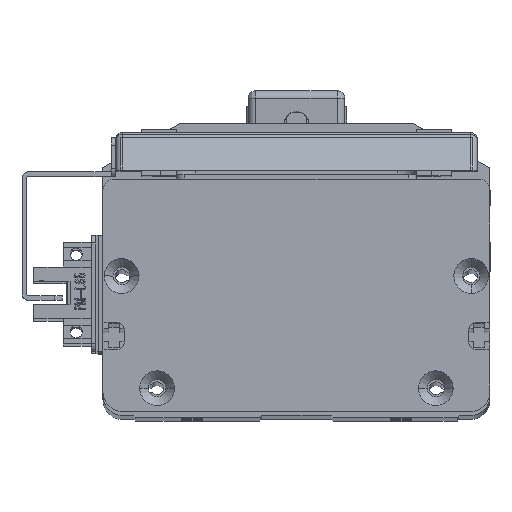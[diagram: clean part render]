
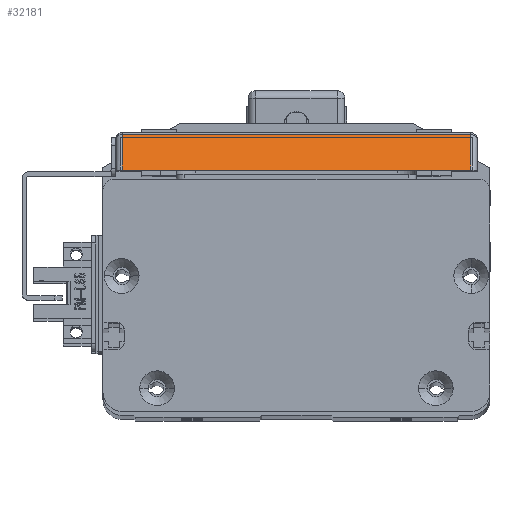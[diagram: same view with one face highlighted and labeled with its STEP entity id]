
A CAD part, top view. The second image highlights one B-rep face of the part: STEP entity #32181.
In plain terms, the highlighted planar face has unit normal (0, 0.707, 0.707) as drawn and (-0.707, 0, -0.707) by its records, which use the part's own axes.
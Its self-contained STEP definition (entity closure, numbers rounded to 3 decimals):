
#5057 = VERTEX_POINT ( 'NONE', #39494 ) ;
#8179 = LINE ( 'NONE', #17613, #65412 ) ;
#8693 = CARTESIAN_POINT ( 'NONE',  ( -57.298, 1.7, -5.102 ) ) ;
#9128 = VECTOR ( 'NONE', #19015, 1000. ) ;
#11614 = LINE ( 'NONE', #40902, #65594 ) ;
#12876 = LINE ( 'NONE', #16562, #28398 ) ;
#14655 = EDGE_CURVE ( 'NONE', #26137, #59833, #11614, .T. ) ;
#15195 = DIRECTION ( 'NONE',  ( -0.707, 0., 0.707 ) ) ;
#16490 = FACE_OUTER_BOUND ( 'NONE', #64383, .T. ) ;
#16562 = CARTESIAN_POINT ( 'NONE',  ( -66.5, 93.4, 4.1 ) ) ;
#17613 = CARTESIAN_POINT ( 'NONE',  ( -68., 91.7, 5.6 ) ) ;
#18095 = ORIENTED_EDGE ( 'NONE', *, *, #14655, .T. ) ;
#19015 = DIRECTION ( 'NONE',  ( -0.707, 0., 0.707 ) ) ;
#19138 = AXIS2_PLACEMENT_3D ( 'NONE', #57967, #57286, #15195 ) ;
#20891 = DIRECTION ( 'NONE',  ( 0., 1., 0. ) ) ;
#25273 = ORIENTED_EDGE ( 'NONE', *, *, #50992, .T. ) ;
#26137 = VERTEX_POINT ( 'NONE', #62815 ) ;
#28398 = VECTOR ( 'NONE', #20891, 1000. ) ;
#32181 = ADVANCED_FACE ( 'NONE', ( #16490 ), #46513, .T. ) ;
#39494 = CARTESIAN_POINT ( 'NONE',  ( -66.5, 1.7, 4.1 ) ) ;
#40227 = DIRECTION ( 'NONE',  ( 0., -1., 0. ) ) ;
#40274 = LINE ( 'NONE', #56654, #9128 ) ;
#40902 = CARTESIAN_POINT ( 'NONE',  ( -57.298, 93.4, -5.102 ) ) ;
#42462 = ORIENTED_EDGE ( 'NONE', *, *, #58993, .T. ) ;
#43891 = DIRECTION ( 'NONE',  ( 0.707, 0., -0.707 ) ) ;
#46513 = PLANE ( 'NONE',  #19138 ) ;
#46517 = EDGE_CURVE ( 'NONE', #59833, #5057, #40274, .T. ) ;
#47872 = CARTESIAN_POINT ( 'NONE',  ( -66.5, 91.7, 4.1 ) ) ;
#50992 = EDGE_CURVE ( 'NONE', #62911, #26137, #8179, .T. ) ;
#51958 = ORIENTED_EDGE ( 'NONE', *, *, #46517, .T. ) ;
#56654 = CARTESIAN_POINT ( 'NONE',  ( -68., 1.7, 5.6 ) ) ;
#57286 = DIRECTION ( 'NONE',  ( -0.707, 0., -0.707 ) ) ;
#57967 = CARTESIAN_POINT ( 'NONE',  ( -68., 93.4, 5.6 ) ) ;
#58993 = EDGE_CURVE ( 'NONE', #5057, #62911, #12876, .T. ) ;
#59833 = VERTEX_POINT ( 'NONE', #8693 ) ;
#62815 = CARTESIAN_POINT ( 'NONE',  ( -57.298, 91.7, -5.102 ) ) ;
#62911 = VERTEX_POINT ( 'NONE', #47872 ) ;
#64383 = EDGE_LOOP ( 'NONE', ( #51958, #42462, #25273, #18095 ) ) ;
#65412 = VECTOR ( 'NONE', #43891, 1000. ) ;
#65594 = VECTOR ( 'NONE', #40227, 1000. ) ;
